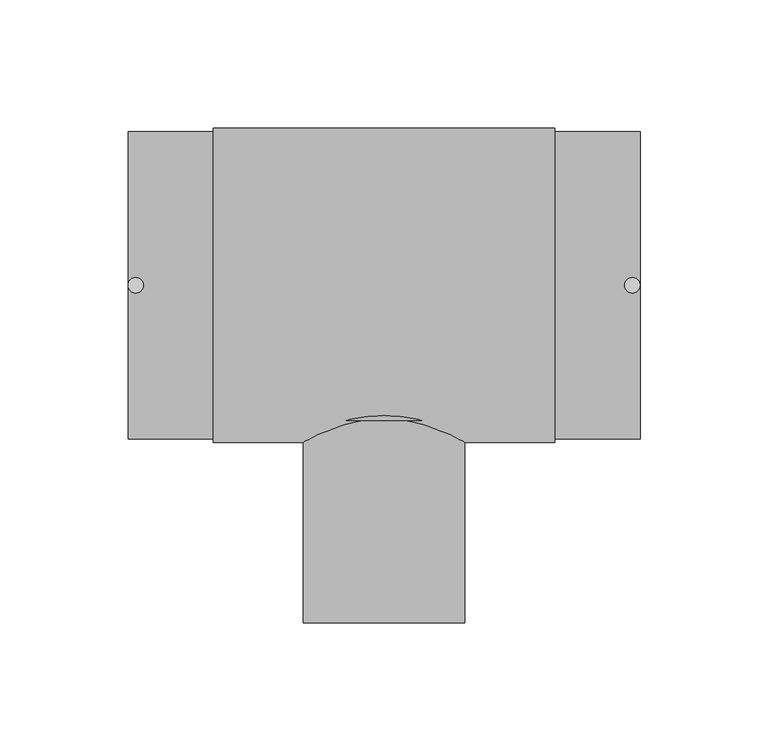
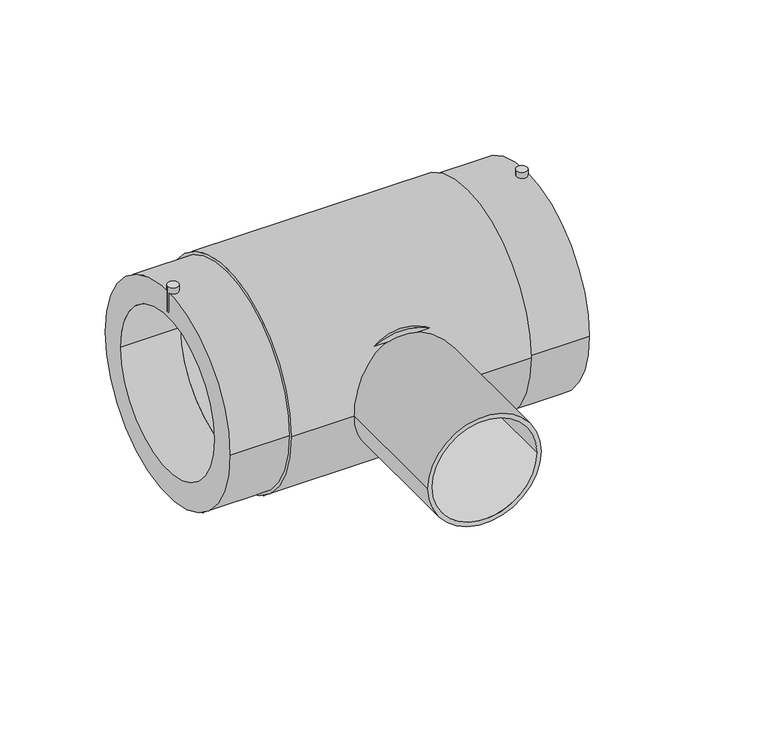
"""IFC4 building model written with IfcOpenShell, lengths in millimetres: pipe fitting geometry, EGB_VASEN_ PPR_Te electrosoldable WXRD300_Te reducida electrosoldable WXRD310 : Te electrosoldable."""

from ifc_helpers import new_model, si_unit, point, frame, frame_2d, origin, origin_2d, place, context, project, spatial, circle_curve, trimmed, segment, composite_curve, outline, extrude, source, transform, mapped, element, save


def pipe_fitting_9865ca90(model_context):
    return source(origin(), model_context, "Body", "SweptSolid", [
        extrude(outline(composite_curve([segment(trimmed(circle_curve(frame_2d((-97.0, 0.0)), 3.0), [point((-100.0, 0.0))], [point((-94.0, 0.0))], False, "CARTESIAN"), True, "CONTINUOUS"), segment(trimmed(circle_curve(frame_2d((-97.0, 0.0)), 3.0), [point((-94.0, 0.0))], [point((-100.0, 0.0))], False, "CARTESIAN"), True, "CONTINUOUS")], self_intersect=False)), frame((0.0, 0.0, 48.0), z_axis=(0.0, 0.0, 1.0), x_axis=(1.0, 0.0, 0.0)), (0.0, 0.0, 1.0), 15.0),
        extrude(outline(composite_curve([segment(trimmed(circle_curve(frame_2d((97.0, 0.0)), 3.0), [point((94.0, 0.0))], [point((100.0, 0.0))], False, "CARTESIAN"), True, "CONTINUOUS"), segment(trimmed(circle_curve(frame_2d((97.0, 0.0)), 3.0), [point((100.0, 0.0))], [point((94.0, 0.0))], False, "CARTESIAN"), True, "CONTINUOUS")], self_intersect=False)), frame((0.0, 0.0, 48.0), z_axis=(0.0, 0.0, 1.0), x_axis=(1.0, 0.0, 0.0)), (0.0, 0.0, 1.0), 15.0),
        extrude(outline(composite_curve([segment(trimmed(circle_curve(origin_2d(), 34.0), [point((0.0, 34.0))], [point((0.0, -34.0))], False, "CARTESIAN"), True, "CONTINUOUS"), segment(trimmed(circle_curve(origin_2d(), 34.0), [point((0.0, -34.0))], [point((0.0, 34.0))], False, "CARTESIAN"), True, "CONTINUOUS")], self_intersect=False)), frame((0.0, -52.8, 0.0), z_axis=(0.0, 1.0, 0.0), x_axis=(0.0, 0.0, 1.0)), (0.0, 0.0, 1.0), 52.8),
        extrude(outline(composite_curve([segment(trimmed(circle_curve(origin_2d(), 31.5), [point((0.0, -31.5))], [point((0.0, 31.5))], False, "CARTESIAN"), True, "CONTINUOUS"), segment(trimmed(circle_curve(origin_2d(), 31.5), [point((0.0, 31.5))], [point((0.0, -31.5))], False, "CARTESIAN"), True, "CONTINUOUS")], self_intersect=False), holes=[composite_curve([segment(trimmed(circle_curve(origin_2d(), 29.0), [point((0.0, -29.0))], [point((0.0, 29.0))], True, "CARTESIAN"), True, "CONTINUOUS"), segment(trimmed(circle_curve(origin_2d(), 29.0), [point((0.0, 29.0))], [point((0.0, -29.0))], True, "CARTESIAN"), True, "CONTINUOUS")], self_intersect=False)]), frame((0.0, -132.0, 0.0), z_axis=(0.0, 1.0, 0.0), x_axis=(0.0, 0.0, 1.0)), (0.0, 0.0, 1.0), 79.2),
        extrude(outline(composite_curve([segment(trimmed(circle_curve(origin_2d(), 61.5), [point((-61.5, 0.0))], [point((61.5, 0.0))], False, "CARTESIAN"), True, "CONTINUOUS"), segment(trimmed(circle_curve(origin_2d(), 61.5), [point((61.5, 0.0))], [point((-61.5, 0.0))], False, "CARTESIAN"), True, "CONTINUOUS")], self_intersect=False), holes=[composite_curve([segment(trimmed(circle_curve(origin_2d(), 45.0), [point((-45.0, 0.0))], [point((45.0, 0.0))], True, "CARTESIAN"), True, "CONTINUOUS"), segment(trimmed(circle_curve(origin_2d(), 45.0), [point((45.0, 0.0))], [point((-45.0, 0.0))], True, "CARTESIAN"), True, "CONTINUOUS")], self_intersect=False)]), frame((-66.6666667, 0.0, 0.0), z_axis=(1.0, 0.0, 0.0), x_axis=(0.0, 1.0, 0.0)), (0.0, 0.0, 1.0), 133.3333333),
        extrude(outline(composite_curve([segment(trimmed(circle_curve(origin_2d(), 60.0), [point((-60.0, 0.0))], [point((60.0, 0.0))], False, "CARTESIAN"), True, "CONTINUOUS"), segment(trimmed(circle_curve(origin_2d(), 60.0), [point((60.0, 0.0))], [point((-60.0, 0.0))], False, "CARTESIAN"), True, "CONTINUOUS")], self_intersect=False), holes=[composite_curve([segment(trimmed(circle_curve(origin_2d(), 45.0), [point((-45.0, 0.0))], [point((45.0, 0.0))], True, "CARTESIAN"), True, "CONTINUOUS"), segment(trimmed(circle_curve(origin_2d(), 45.0), [point((45.0, 0.0))], [point((-45.0, 0.0))], True, "CARTESIAN"), True, "CONTINUOUS")], self_intersect=False)]), frame((-100.0, 0.0, 0.0), z_axis=(1.0, 0.0, 0.0), x_axis=(0.0, 1.0, 0.0)), (0.0, 0.0, 1.0), 200.0),
    ])


if __name__ == "__main__":
    model = new_model("IFC4")
    model_context = context("Model", 3, world=origin())
    ifc_project = project(units=[si_unit("LENGTHUNIT", "METRE", prefix="MILLI")], contexts=[model_context])
    site = spatial("IfcSite", under=ifc_project)
    building = spatial("IfcBuilding", under=site)
    placement = place(None, origin())
    pipe_fitting_shape = pipe_fitting_9865ca90(model_context)
    element("IfcPipeFitting", 1, ObjectType="EGB_VASEN_ PPR_Te electrosoldable WXRD300_Te reducida electrosoldable WXRD310 : Te electrosoldable", at=placement, inside=building, context=model_context, shape_type="MappedRepresentation", body=[
        mapped(pipe_fitting_shape, transform((0.0, 0.0, 0.0), x_axis=(1.0, 0.0, 0.0), y_axis=(0.0, 1.0, 0.0), z_axis=(0.0, 0.0, 1.0))),
    ])
    save(model, "model.ifc")
